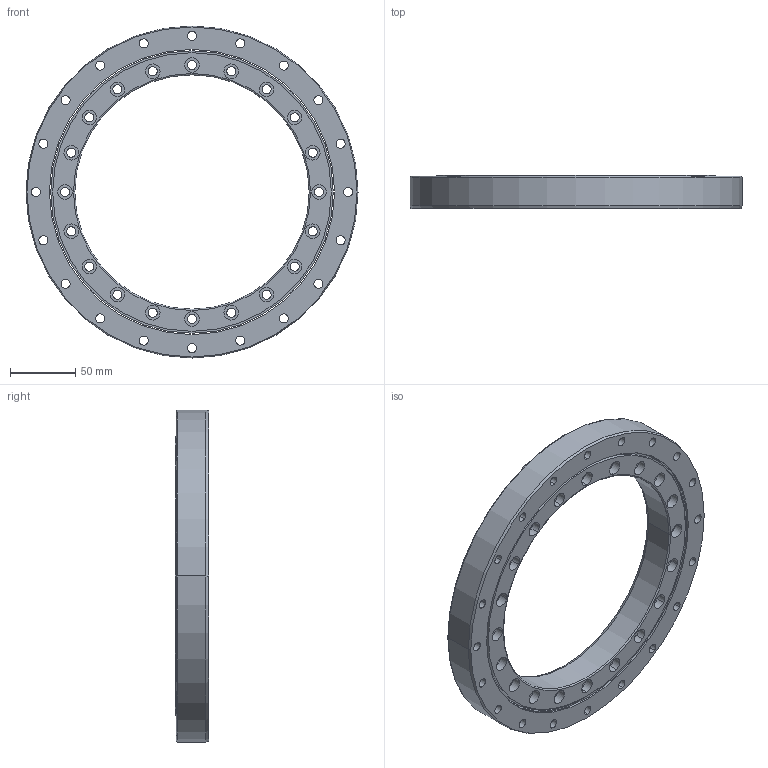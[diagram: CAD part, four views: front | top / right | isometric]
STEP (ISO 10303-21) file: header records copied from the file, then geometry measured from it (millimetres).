
FILE_DESCRIPTION((''),'2;1');
FILE_NAME('XSU080218','2015-07-02T',('Administrator'),(''),'PRO/ENGINEER BY PARAMETRIC TECHNOLOGY CORPORATION, 2010180','PRO/ENGINEER BY PARAMETRIC TECHNOLOGY CORPORATION, 2010180','');
FILE_SCHEMA(('AUTOMOTIVE_DESIGN_CC2 { 1 2 10303 214 -1 1 5 2 }'));
Length unit declared in the file: millimetre
Products named in the file (1): XSU080218
Bounding box: 255 x 25.4 x 255 mm (x, y, z)
Volume: 512737.3 mm3; surface area: 152885.5 mm2
Topology: 2 solids, 2 shells, 250 faces, 580 edges, 380 vertices
Faces by surface type: cylinder 184, plane 50, cone 12, torus 4
Entity records: 7541 total; most frequent: DIRECTION 1464, CARTESIAN_POINT 1210, ORIENTED_EDGE 1160, AXIS2_PLACEMENT_3D 634, EDGE_CURVE 580, CIRCLE 384, VERTEX_POINT 380, EDGE_LOOP 380
